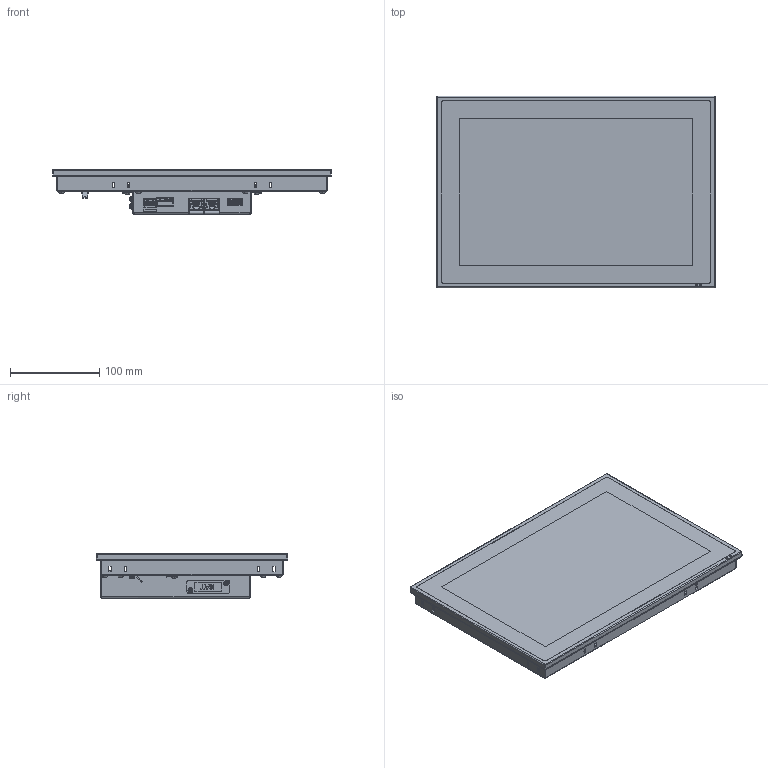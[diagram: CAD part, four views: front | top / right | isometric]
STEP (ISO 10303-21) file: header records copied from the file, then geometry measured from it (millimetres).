
FILE_DESCRIPTION (( 'STEP AP214' ), '1' );
FILE_NAME ('ETT1234 (01-230-1234) 20190408.STEP', '2019-04-08T14:09:50', ( 'Windows-Benutzer' ), ( '' ), 'SwSTEP 2.0', 'SolidWorks 2018', '' );
FILE_SCHEMA (( 'AUTOMOTIVE_DESIGN' ));
Length unit declared in the file: millimetre
Products named in the file (1): ETT1234 (01-230-1234) 20190408
Bounding box: 313 x 215 x 50 mm (x, y, z)
Surface area: 535112.6 mm2 (no closed solid volume)
Topology: 0 solids, 73 shells, 6171 faces, 16277 edges, 10374 vertices
Faces by surface type: plane 3735, cylinder 1636, bspline 373, cone 328, torus 75, sphere 24
Full cylindrical faces by diameter (mm): 0.2 x1, 0.9 x1
Entity records: 272164 total; most frequent: CARTESIAN_POINT 51764, ORIENTED_EDGE 32476, DIRECTION 30075, EDGE_CURVE 16243, LINE 11421, VECTOR 11421, VERTEX_POINT 10374, AXIS2_PLACEMENT_3D 9327
